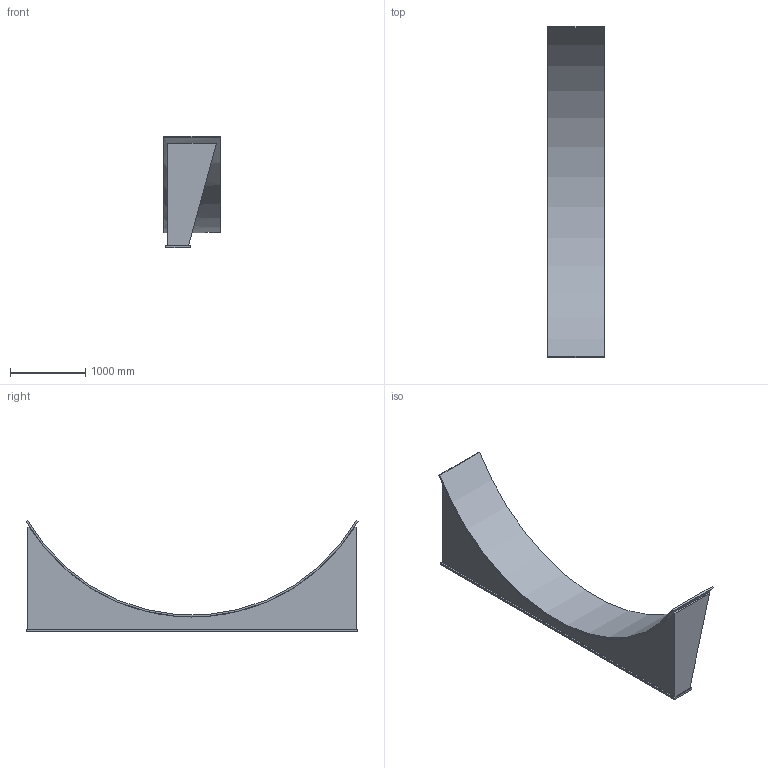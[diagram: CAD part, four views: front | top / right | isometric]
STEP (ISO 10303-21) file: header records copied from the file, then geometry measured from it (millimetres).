
FILE_DESCRIPTION(/* description */ (''),/* implementation_level */ '2;1');
FILE_NAME(/* name */ 'C:\Users\D\Documents\Inventor\HP\JPI\横置きタンクサドル\重荷重用\hc-saddle-hl_5000.stp',/* time_stamp */ '2026-01-27T18:45:21+09:00',/* author */ ('D'),/* organization */ (''),/* preprocessor_version */ 'ST-DEVELOPER v18',/* originating_system */ 'Autodesk Inventor 2020',/* authorisation */ '');
FILE_SCHEMA (('AUTOMOTIVE_DESIGN { 1 0 10303 214 3 1 1 }'));
Length unit declared in the file: millimetre
Products named in the file (1): 200A
Bounding box: 750 x 4423.07 x 1479.05 mm (x, y, z)
Volume: 236880396.6 mm3; surface area: 19046395.6 mm2
Topology: 1 solids, 1 shells, 46 faces, 120 edges, 78 vertices
Faces by surface type: plane 40, cylinder 6
Full cylindrical faces by diameter (mm): 62 x4
Entity records: 1497 total; most frequent: ORIENTED_EDGE 252, CARTESIAN_POINT 251, DIRECTION 242, EDGE_CURVE 126, LINE 104, VECTOR 104, VERTEX_POINT 78, AXIS2_PLACEMENT_3D 69
